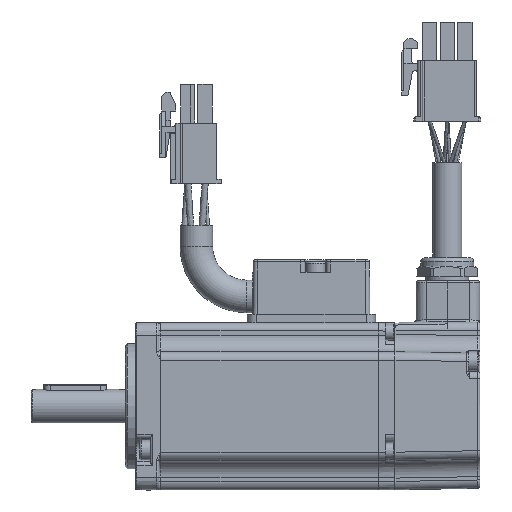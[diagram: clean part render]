
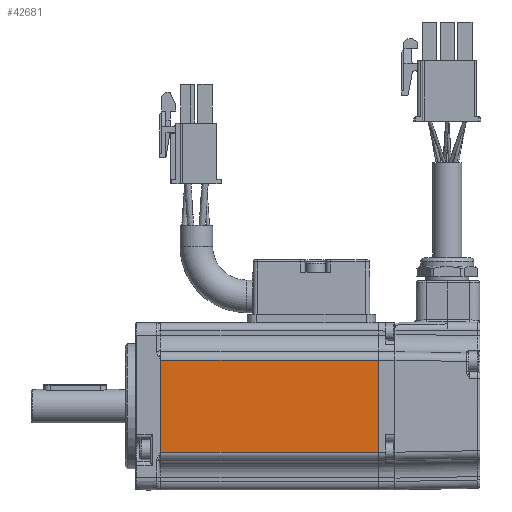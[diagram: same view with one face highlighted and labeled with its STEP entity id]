
A CAD part, left-side view. The second image highlights one B-rep face of the part: STEP entity #42681.
In plain terms, the highlighted planar face has unit normal (-1, 0, 0) as drawn and (0, 1, 0) by its records, which use the part's own axes.
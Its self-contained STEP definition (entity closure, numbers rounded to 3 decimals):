
#1938=PLANE('',#55797);
#3767=LINE('',#74602,#7826);
#3787=LINE('',#74700,#7846);
#3792=LINE('',#74710,#7851);
#3795=LINE('',#74714,#7854);
#7826=VECTOR('',#60340,1000.);
#7846=VECTOR('',#60430,1000.);
#7851=VECTOR('',#60443,1000.);
#7854=VECTOR('',#60448,1000.);
#13689=ORIENTED_EDGE('',*,*,#25012,.F.);
#13690=ORIENTED_EDGE('',*,*,#25003,.T.);
#13691=ORIENTED_EDGE('',*,*,#25009,.T.);
#13692=ORIENTED_EDGE('',*,*,#24956,.T.);
#24956=EDGE_CURVE('',#30842,#30841,#3767,.T.);
#25003=EDGE_CURVE('',#30885,#30884,#3787,.T.);
#25009=EDGE_CURVE('',#30884,#30842,#3792,.T.);
#25012=EDGE_CURVE('',#30885,#30841,#3795,.T.);
#30841=VERTEX_POINT('',#74601);
#30842=VERTEX_POINT('',#74603);
#30884=VERTEX_POINT('',#74699);
#30885=VERTEX_POINT('',#74701);
#35909=EDGE_LOOP('',(#13689,#13690,#13691,#13692));
#39150=FACE_BOUND('',#35909,.T.);
#42681=ADVANCED_FACE('',(#39150),#1938,.T.);
#55797=AXIS2_PLACEMENT_3D('',#74747,#60497,#60498);
#60340=DIRECTION('',(0.,0.,1.));
#60430=DIRECTION('',(0.,0.,-1.));
#60443=DIRECTION('',(-1.,0.,0.));
#60448=DIRECTION('',(-1.,0.,0.));
#60497=DIRECTION('',(0.,1.,0.));
#60498=DIRECTION('',(0.,0.,1.));
#74601=CARTESIAN_POINT('',(-53.,20.,11.));
#74602=CARTESIAN_POINT('',(-53.,20.,-20.));
#74603=CARTESIAN_POINT('',(-53.,20.,-11.));
#74699=CARTESIAN_POINT('',(-1.,20.,-11.));
#74700=CARTESIAN_POINT('',(-1.,20.,-20.));
#74701=CARTESIAN_POINT('',(-1.,20.,11.));
#74710=CARTESIAN_POINT('',(-200.,20.,-11.));
#74714=CARTESIAN_POINT('',(0.,20.,11.));
#74747=CARTESIAN_POINT('',(-200.,20.,-20.));
